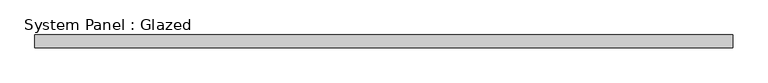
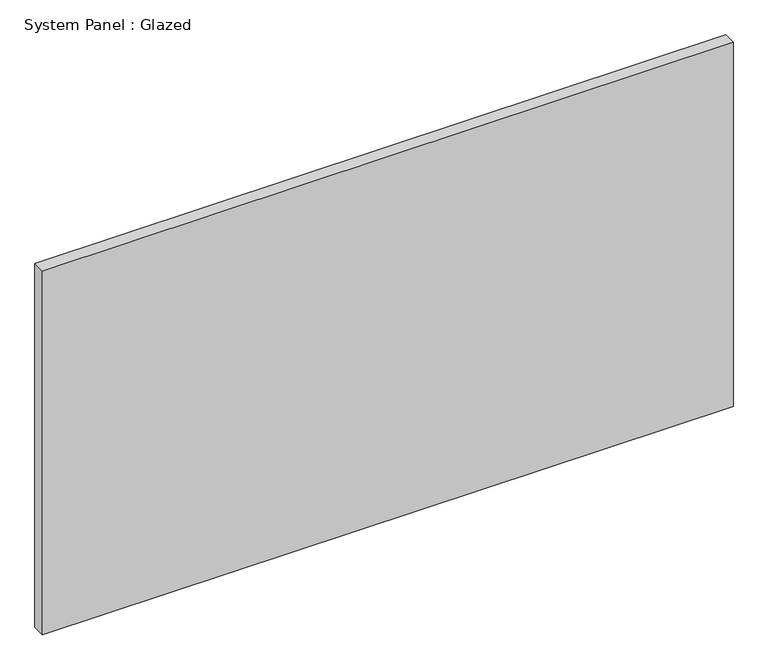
"""IFC4 building model written with IfcOpenShell, lengths in millimetres: plate geometry, System Panel : Glazed."""

from ifc_helpers import new_model, si_unit, origin, origin_with_axes, place, context, project, spatial, polyline, outline, extrude, source, transform, mapped, element, save


def system_panel_glazed_ff7d22cf(model_context):
    return source(origin(), model_context, "Body", "SweptSolid", [
        extrude(outline(polyline([(680.0830663, 19.05), (-680.0830663, 19.05), (-680.0830663, 44.45), (680.0830663, 44.45), (680.0830663, 19.05)])), origin_with_axes(), (0.0, 0.0, 1.0), 758.2776451),
    ])


if __name__ == "__main__":
    model = new_model("IFC4")
    model_context = context("Model", 3, world=origin())
    ifc_project = project(units=[si_unit("LENGTHUNIT", "METRE", prefix="MILLI")], contexts=[model_context])
    site = spatial("IfcSite", under=ifc_project)
    building = spatial("IfcBuilding", under=site)
    placement = place(None, origin())
    system_panel_glazed_shape = system_panel_glazed_ff7d22cf(model_context)
    element("IfcPlate", 1, ObjectType="System Panel : Glazed", at=placement, inside=building, context=model_context, shape_type="MappedRepresentation", body=[
        mapped(system_panel_glazed_shape, transform((0.0, 0.0, 0.0), x_axis=(1.0, 0.0, 0.0), y_axis=(0.0, 1.0, 0.0), z_axis=(0.0, 0.0, 1.0))),
    ])
    save(model, "model.ifc")
